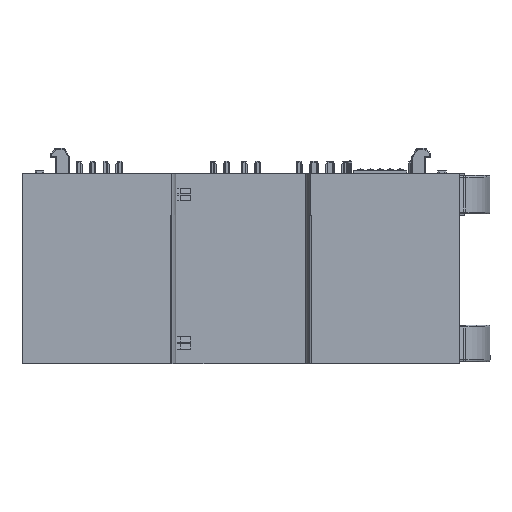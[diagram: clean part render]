
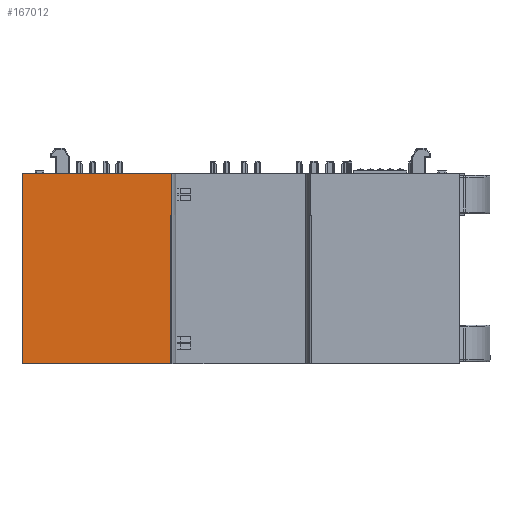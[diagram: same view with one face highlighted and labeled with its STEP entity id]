
A CAD part, front view. The second image highlights one B-rep face of the part: STEP entity #167012.
In plain terms, the highlighted planar face has unit normal (0, -1, 0).
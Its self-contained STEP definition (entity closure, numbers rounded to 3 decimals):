
#166917=AXIS2_PLACEMENT_3D('Plane Axis2P3D',#166914,#166915,#166916) ;
#166914=CARTESIAN_POINT('Axis2P3D Location',(18.991,-7.,0.)) ;
#166962=CARTESIAN_POINT('Line Origine',(39.508,-7.,40.4)) ;
#166966=CARTESIAN_POINT('Vertex',(59.75,-7.,40.4)) ;
#166968=CARTESIAN_POINT('Vertex',(19.267,-7.,40.4)) ;
#166971=CARTESIAN_POINT('Line Origine',(19.267,-7.,20.15)) ;
#166975=CARTESIAN_POINT('Vertex',(19.267,-7.,-0.1)) ;
#166978=CARTESIAN_POINT('Line Origine',(19.129,-7.,-0.1)) ;
#166982=CARTESIAN_POINT('Vertex',(18.991,-7.,-0.1)) ;
#166985=CARTESIAN_POINT('Line Origine',(18.991,-7.,-5.85)) ;
#166989=CARTESIAN_POINT('Vertex',(18.991,-7.,-11.6)) ;
#166992=CARTESIAN_POINT('Line Origine',(39.371,-7.,-11.6)) ;
#166996=CARTESIAN_POINT('Vertex',(59.75,-7.,-11.6)) ;
#166999=CARTESIAN_POINT('Line Origine',(59.75,-7.,14.4)) ;
#166915=DIRECTION('Axis2P3D Direction',(0.,-1.,0.)) ;
#166916=DIRECTION('Axis2P3D XDirection',(1.,0.,0.)) ;
#166963=DIRECTION('Vector Direction',(-1.,0.,0.)) ;
#166972=DIRECTION('Vector Direction',(0.,0.,-1.)) ;
#166979=DIRECTION('Vector Direction',(1.,0.,0.)) ;
#166986=DIRECTION('Vector Direction',(0.,0.,1.)) ;
#166993=DIRECTION('Vector Direction',(1.,0.,0.)) ;
#167000=DIRECTION('Vector Direction',(0.,0.,1.)) ;
#166964=VECTOR('Line Direction',#166963,1.) ;
#166973=VECTOR('Line Direction',#166972,1.) ;
#166980=VECTOR('Line Direction',#166979,1.) ;
#166987=VECTOR('Line Direction',#166986,1.) ;
#166994=VECTOR('Line Direction',#166993,1.) ;
#167001=VECTOR('Line Direction',#167000,1.) ;
#167005=ORIENTED_EDGE('',*,*,#166970,.T.) ;
#167006=ORIENTED_EDGE('',*,*,#166977,.T.) ;
#167007=ORIENTED_EDGE('',*,*,#166984,.F.) ;
#167008=ORIENTED_EDGE('',*,*,#166991,.F.) ;
#167009=ORIENTED_EDGE('',*,*,#166998,.T.) ;
#167010=ORIENTED_EDGE('',*,*,#167003,.T.) ;
#167012=ADVANCED_FACE('Brep With Voids',(#167011),#166918,.T.) ;
#166970=EDGE_CURVE('',#166967,#166969,#166965,.T.) ;
#166977=EDGE_CURVE('',#166969,#166976,#166974,.T.) ;
#166984=EDGE_CURVE('',#166983,#166976,#166981,.T.) ;
#166991=EDGE_CURVE('',#166990,#166983,#166988,.T.) ;
#166998=EDGE_CURVE('',#166990,#166997,#166995,.T.) ;
#167003=EDGE_CURVE('',#166997,#166967,#167002,.T.) ;
#167004=EDGE_LOOP('',(#167005,#167006,#167007,#167008,#167009,#167010)) ;
#167011=FACE_OUTER_BOUND('',#167004,.T.) ;
#166965=LINE('Line',#166962,#166964) ;
#166974=LINE('Line',#166971,#166973) ;
#166981=LINE('Line',#166978,#166980) ;
#166988=LINE('Line',#166985,#166987) ;
#166995=LINE('Line',#166992,#166994) ;
#167002=LINE('Line',#166999,#167001) ;
#166918=PLANE('',#166917) ;
#166967=VERTEX_POINT('',#166966) ;
#166969=VERTEX_POINT('',#166968) ;
#166976=VERTEX_POINT('',#166975) ;
#166983=VERTEX_POINT('',#166982) ;
#166990=VERTEX_POINT('',#166989) ;
#166997=VERTEX_POINT('',#166996) ;
